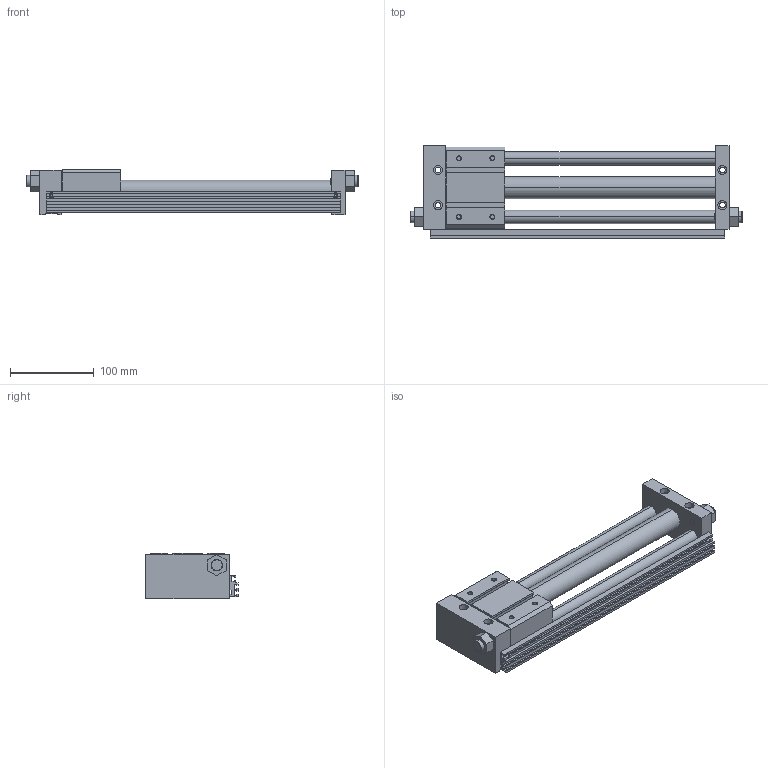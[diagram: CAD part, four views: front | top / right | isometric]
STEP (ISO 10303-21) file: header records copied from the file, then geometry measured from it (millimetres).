
FILE_DESCRIPTION((''),'2;1');
FILE_NAME('C:\Documents and Settings\Administrator\桌面\GYS\GYS25\GYSR25X250.stp','2012-03-06T11:00:43',('Administrator'),(''),'Autodesk Inventor 8','Autodesk Inventor 8','');
FILE_SCHEMA(('AUTOMOTIVE_DESIGN { 1 0 10303 214 1 1 1 1 }'));
Length unit declared in the file: millimetre
Products named in the file (3): GYSR25X250; GYS25X250; GYS25160X250
Assembly tree (2 placements, depth 2):
  GYSR25X250
    GYS25X250
    GYS25160X250
Bounding box: 397 x 110.5 x 54 mm (x, y, z)
Volume: 835136.2 mm3; surface area: 161470.4 mm2
Topology: 2 solids, 2 shells, 276 faces, 718 edges, 468 vertices
Faces by surface type: plane 154, cylinder 80, cone 32, bspline 10
Entity records: 8662 total; most frequent: CARTESIAN_POINT 1609, DIRECTION 1476, ORIENTED_EDGE 1436, EDGE_CURVE 718, VECTOR 502, LINE 502, AXIS2_PLACEMENT_3D 487, VERTEX_POINT 468
